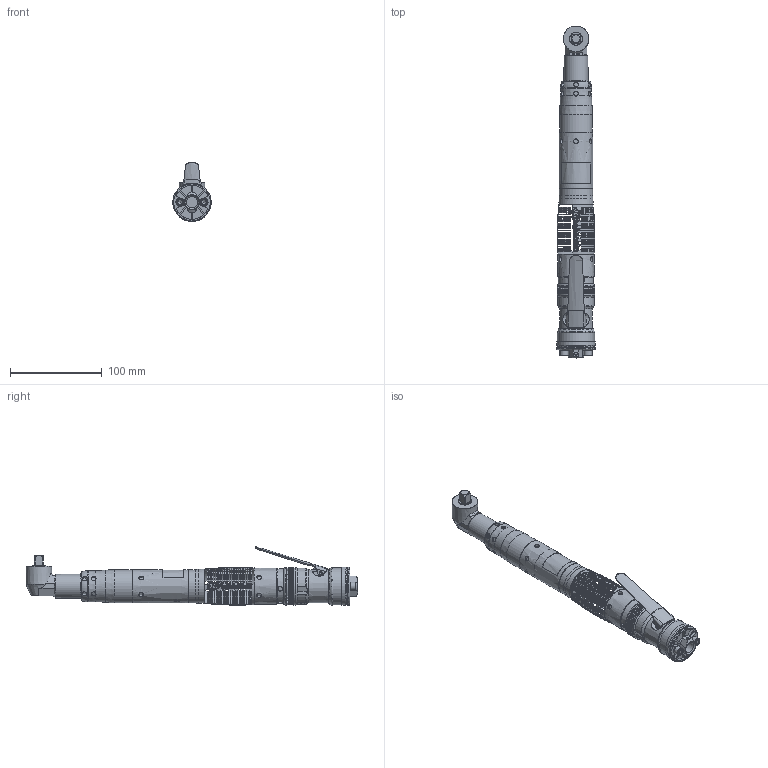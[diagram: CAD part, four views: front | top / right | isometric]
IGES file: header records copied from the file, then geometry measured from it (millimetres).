
Global section: file name: C:\Documents and Settings\jyoung\Desktop\QA4AALS030BP28S06.igs; native system: Unigraphics Version X V2.0; preprocessor: Unigraphics NX IGES V2.0; date: 20051013.090904; units: millimetre
Bounding box: 42 x 362.69 x 64.44 mm (x, y, z)
Surface area: 71246.2 mm2 (no closed solid volume)
Topology: 0 solids, 1 shells, 2906 faces, 29807 edges, 29652 vertices
Faces by surface type: extrusion 1190, revolution 983, bspline 733
